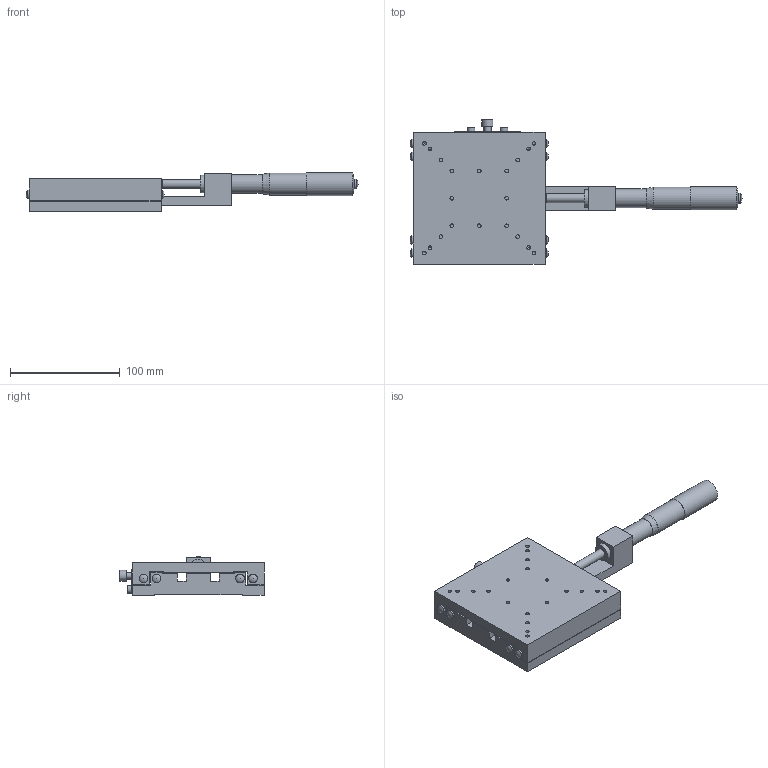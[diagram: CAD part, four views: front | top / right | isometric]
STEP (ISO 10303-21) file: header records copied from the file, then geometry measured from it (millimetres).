
FILE_DESCRIPTION( ( 'STEP AP214' ), '1' );
FILE_NAME( 'C:/Project/3D_B11-120A-配布-070508.stp', '2007-05-08T10:42:31', ( ' ' ), ( ' ' ), 'XStep 1.0', ' ', ' ' );
FILE_SCHEMA( ( 'automotive_design' ) );
Length unit declared in the file: millimetre
Products named in the file (3): 1; 2; 3
Bounding box: 302.6 x 131.5 x 35.5 mm (x, y, z)
Volume: 455752.8 mm3; surface area: 110926.4 mm2
Topology: 3 solids, 3 shells, 169 faces, 481 edges, 323 vertices
Faces by surface type: cylinder 78, plane 70, cone 11, sphere 10
Full cylindrical faces by diameter (mm): 3 x1, 3.3 x40, 4.5 x4, 6 x1, 7 x3, 8 x14, 9 x1, 10 x1, 16 x1, 17 x1, 19 x1, 20 x1, 21 x1
Entity records: 6008 total; most frequent: CARTESIAN_POINT 817, DIRECTION 800, ORIENTED_EDGE 634, EDGE_CURVE 317, AXIS2_PLACEMENT_3D 315, EDGE_LOOP 310, VERTEX_POINT 260, FACE_OUTER_BOUND 239
